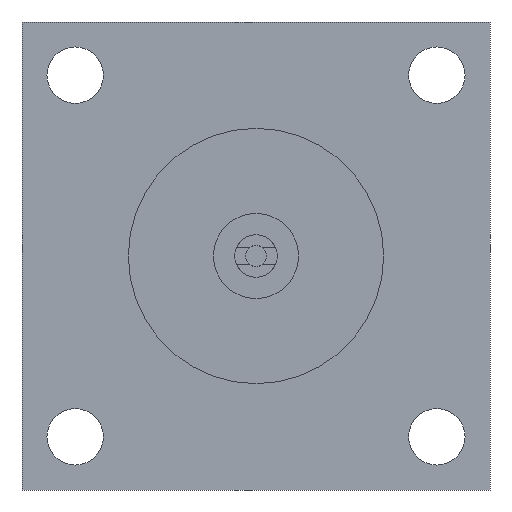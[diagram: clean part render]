
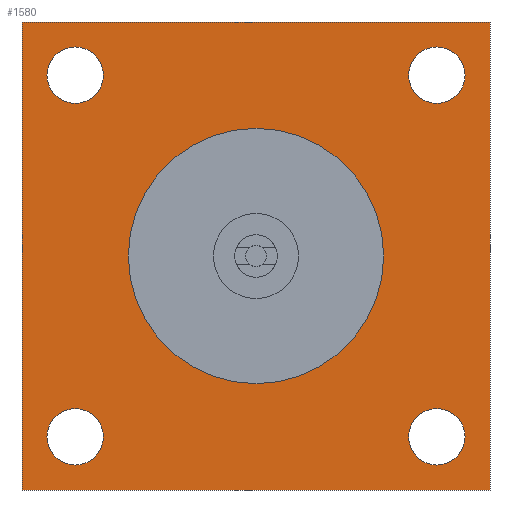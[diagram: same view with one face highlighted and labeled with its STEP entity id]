
A CAD part, left-side view. The second image highlights one B-rep face of the part: STEP entity #1580.
In plain terms, the highlighted planar face has unit normal (-1, 0, 0).
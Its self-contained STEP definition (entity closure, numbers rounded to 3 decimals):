
#8 = ORIENTED_EDGE ( 'NONE', *, *, #828, .F. ) ;
#11 = AXIS2_PLACEMENT_3D ( 'NONE', #247, #294, #1076 ) ;
#58 = EDGE_LOOP ( 'NONE', ( #163, #1686 ) ) ;
#61 = ORIENTED_EDGE ( 'NONE', *, *, #1504, .F. ) ;
#74 = VECTOR ( 'NONE', #1184, 1000. ) ;
#77 = VECTOR ( 'NONE', #419, 1000. ) ;
#118 = VERTEX_POINT ( 'NONE', #1096 ) ;
#129 = AXIS2_PLACEMENT_3D ( 'NONE', #1227, #1236, #1251 ) ;
#132 = CARTESIAN_POINT ( 'NONE',  ( -20., -85., 85. ) ) ;
#147 = DIRECTION ( 'NONE',  ( -1., 0., 0. ) ) ;
#150 = VERTEX_POINT ( 'NONE', #1061 ) ;
#158 = DIRECTION ( 'NONE',  ( 0., 0., 1. ) ) ;
#163 = ORIENTED_EDGE ( 'NONE', *, *, #671, .F. ) ;
#186 = DIRECTION ( 'NONE',  ( 0., 0., 1. ) ) ;
#222 = FACE_BOUND ( 'NONE', #593, .T. ) ;
#247 = CARTESIAN_POINT ( 'NONE',  ( -20., 85., 85. ) ) ;
#249 = AXIS2_PLACEMENT_3D ( 'NONE', #1136, #1697, #186 ) ;
#254 = CIRCLE ( 'NONE', #770, 13.25 ) ;
#256 = CIRCLE ( 'NONE', #295, 13.25 ) ;
#269 = AXIS2_PLACEMENT_3D ( 'NONE', #912, #834, #926 ) ;
#294 = DIRECTION ( 'NONE',  ( -1., 0., 0. ) ) ;
#295 = AXIS2_PLACEMENT_3D ( 'NONE', #738, #768, #789 ) ;
#300 = CIRCLE ( 'NONE', #11, 13.25 ) ;
#312 = CARTESIAN_POINT ( 'NONE',  ( -20., 110., 110. ) ) ;
#322 = CARTESIAN_POINT ( 'NONE',  ( -20., -85., 71.75 ) ) ;
#324 = VERTEX_POINT ( 'NONE', #1312 ) ;
#360 = CIRCLE ( 'NONE', #619, 13.25 ) ;
#369 = EDGE_CURVE ( 'NONE', #324, #1069, #300, .T. ) ;
#401 = EDGE_LOOP ( 'NONE', ( #1608, #8 ) ) ;
#404 = VECTOR ( 'NONE', #693, 1000. ) ;
#407 = VERTEX_POINT ( 'NONE', #456 ) ;
#419 = DIRECTION ( 'NONE',  ( 0., 0., -1. ) ) ;
#445 = LINE ( 'NONE', #1756, #74 ) ;
#447 = LINE ( 'NONE', #1473, #77 ) ;
#454 = EDGE_CURVE ( 'NONE', #1069, #324, #256, .T. ) ;
#456 = CARTESIAN_POINT ( 'NONE',  ( -20., 85., -71.75 ) ) ;
#464 = VERTEX_POINT ( 'NONE', #877 ) ;
#472 = VERTEX_POINT ( 'NONE', #986 ) ;
#480 = AXIS2_PLACEMENT_3D ( 'NONE', #681, #655, #750 ) ;
#502 = CARTESIAN_POINT ( 'NONE',  ( -20., 110., -110. ) ) ;
#509 = EDGE_CURVE ( 'NONE', #751, #472, #445, .T. ) ;
#517 = VERTEX_POINT ( 'NONE', #322 ) ;
#571 = FACE_BOUND ( 'NONE', #1273, .T. ) ;
#572 = CARTESIAN_POINT ( 'NONE',  ( -20., -110., -110. ) ) ;
#593 = EDGE_LOOP ( 'NONE', ( #1800, #1128 ) ) ;
#598 = DIRECTION ( 'NONE',  ( 0., 1., 0. ) ) ;
#602 = VERTEX_POINT ( 'NONE', #1317 ) ;
#613 = ORIENTED_EDGE ( 'NONE', *, *, #509, .T. ) ;
#619 = AXIS2_PLACEMENT_3D ( 'NONE', #132, #147, #158 ) ;
#621 = ORIENTED_EDGE ( 'NONE', *, *, #1731, .F. ) ;
#624 = CARTESIAN_POINT ( 'NONE',  ( -20., 0., 0. ) ) ;
#644 = AXIS2_PLACEMENT_3D ( 'NONE', #1684, #717, #1543 ) ;
#655 = DIRECTION ( 'NONE',  ( -1., 0., 0. ) ) ;
#671 = EDGE_CURVE ( 'NONE', #602, #517, #360, .T. ) ;
#681 = CARTESIAN_POINT ( 'NONE',  ( -20., -85., -85. ) ) ;
#693 = DIRECTION ( 'NONE',  ( 0., -1., 0. ) ) ;
#717 = DIRECTION ( 'NONE',  ( -1., 0., 0. ) ) ;
#730 = CARTESIAN_POINT ( 'NONE',  ( -20., 85., 98.25 ) ) ;
#738 = CARTESIAN_POINT ( 'NONE',  ( -20., 85., 85. ) ) ;
#750 = DIRECTION ( 'NONE',  ( 0., 0., 1. ) ) ;
#751 = VERTEX_POINT ( 'NONE', #572 ) ;
#762 = LINE ( 'NONE', #502, #404 ) ;
#768 = DIRECTION ( 'NONE',  ( -1., 0., 0. ) ) ;
#770 = AXIS2_PLACEMENT_3D ( 'NONE', #1360, #1509, #1553 ) ;
#773 = VERTEX_POINT ( 'NONE', #802 ) ;
#782 = CIRCLE ( 'NONE', #129, 13.25 ) ;
#783 = EDGE_LOOP ( 'NONE', ( #1469, #613, #1242, #906 ) ) ;
#789 = DIRECTION ( 'NONE',  ( 0., 0., 1. ) ) ;
#797 = LINE ( 'NONE', #312, #1493 ) ;
#802 = CARTESIAN_POINT ( 'NONE',  ( -20., -85., -98.25 ) ) ;
#828 = EDGE_CURVE ( 'NONE', #1742, #407, #782, .T. ) ;
#834 = DIRECTION ( 'NONE',  ( -1., 0., 0. ) ) ;
#865 = VERTEX_POINT ( 'NONE', #1377 ) ;
#877 = CARTESIAN_POINT ( 'NONE',  ( -20., 0., 60. ) ) ;
#890 = CIRCLE ( 'NONE', #1305, 60. ) ;
#906 = ORIENTED_EDGE ( 'NONE', *, *, #1619, .T. ) ;
#912 = CARTESIAN_POINT ( 'NONE',  ( -20., 0., 0. ) ) ;
#926 = DIRECTION ( 'NONE',  ( 0., 0., -1. ) ) ;
#978 = EDGE_CURVE ( 'NONE', #773, #1109, #254, .T. ) ;
#986 = CARTESIAN_POINT ( 'NONE',  ( -20., -110., 110. ) ) ;
#1006 = CIRCLE ( 'NONE', #269, 60. ) ;
#1061 = CARTESIAN_POINT ( 'NONE',  ( -20., 110., 110. ) ) ;
#1062 = EDGE_CURVE ( 'NONE', #472, #150, #797, .T. ) ;
#1069 = VERTEX_POINT ( 'NONE', #730 ) ;
#1076 = DIRECTION ( 'NONE',  ( 0., 0., 1. ) ) ;
#1096 = CARTESIAN_POINT ( 'NONE',  ( -20., 110., -110. ) ) ;
#1099 = EDGE_CURVE ( 'NONE', #407, #1742, #1581, .T. ) ;
#1109 = VERTEX_POINT ( 'NONE', #1381 ) ;
#1128 = ORIENTED_EDGE ( 'NONE', *, *, #369, .F. ) ;
#1136 = CARTESIAN_POINT ( 'NONE',  ( -20., -85., 85. ) ) ;
#1184 = DIRECTION ( 'NONE',  ( 0., 0., 1. ) ) ;
#1199 = ORIENTED_EDGE ( 'NONE', *, *, #978, .F. ) ;
#1207 = AXIS2_PLACEMENT_3D ( 'NONE', #1307, #1448, #1451 ) ;
#1227 = CARTESIAN_POINT ( 'NONE',  ( -20., 85., -85. ) ) ;
#1236 = DIRECTION ( 'NONE',  ( -1., 0., 0. ) ) ;
#1242 = ORIENTED_EDGE ( 'NONE', *, *, #1062, .T. ) ;
#1251 = DIRECTION ( 'NONE',  ( 0., 0., 1. ) ) ;
#1255 = FACE_OUTER_BOUND ( 'NONE', #783, .T. ) ;
#1273 = EDGE_LOOP ( 'NONE', ( #61, #1199 ) ) ;
#1288 = EDGE_CURVE ( 'NONE', #517, #602, #1586, .T. ) ;
#1298 = FACE_BOUND ( 'NONE', #1495, .T. ) ;
#1305 = AXIS2_PLACEMENT_3D ( 'NONE', #624, #1614, #1462 ) ;
#1307 = CARTESIAN_POINT ( 'NONE',  ( -20., 0., 0. ) ) ;
#1312 = CARTESIAN_POINT ( 'NONE',  ( -20., 85., 71.75 ) ) ;
#1317 = CARTESIAN_POINT ( 'NONE',  ( -20., -85., 98.25 ) ) ;
#1360 = CARTESIAN_POINT ( 'NONE',  ( -20., -85., -85. ) ) ;
#1377 = CARTESIAN_POINT ( 'NONE',  ( -20., 0., -60. ) ) ;
#1381 = CARTESIAN_POINT ( 'NONE',  ( -20., -85., -71.75 ) ) ;
#1440 = PLANE ( 'NONE',  #1207 ) ;
#1448 = DIRECTION ( 'NONE',  ( 1., 0., 0. ) ) ;
#1451 = DIRECTION ( 'NONE',  ( 0., 0., -1. ) ) ;
#1462 = DIRECTION ( 'NONE',  ( 0., 0., -1. ) ) ;
#1469 = ORIENTED_EDGE ( 'NONE', *, *, #1659, .T. ) ;
#1473 = CARTESIAN_POINT ( 'NONE',  ( -20., 110., 110. ) ) ;
#1493 = VECTOR ( 'NONE', #598, 1000. ) ;
#1495 = EDGE_LOOP ( 'NONE', ( #621, #1694 ) ) ;
#1504 = EDGE_CURVE ( 'NONE', #1109, #773, #1523, .T. ) ;
#1509 = DIRECTION ( 'NONE',  ( -1., 0., 0. ) ) ;
#1523 = CIRCLE ( 'NONE', #480, 13.25 ) ;
#1526 = CARTESIAN_POINT ( 'NONE',  ( -20., 85., -98.25 ) ) ;
#1543 = DIRECTION ( 'NONE',  ( 0., 0., 1. ) ) ;
#1553 = DIRECTION ( 'NONE',  ( 0., 0., 1. ) ) ;
#1580 = ADVANCED_FACE ( 'NONE', ( #1298, #1677, #571, #222, #1631, #1255 ), #1440, .F. ) ;
#1581 = CIRCLE ( 'NONE', #644, 13.25 ) ;
#1586 = CIRCLE ( 'NONE', #249, 13.25 ) ;
#1593 = EDGE_CURVE ( 'NONE', #464, #865, #890, .T. ) ;
#1608 = ORIENTED_EDGE ( 'NONE', *, *, #1099, .F. ) ;
#1614 = DIRECTION ( 'NONE',  ( -1., 0., 0. ) ) ;
#1619 = EDGE_CURVE ( 'NONE', #150, #118, #447, .T. ) ;
#1631 = FACE_BOUND ( 'NONE', #401, .T. ) ;
#1659 = EDGE_CURVE ( 'NONE', #118, #751, #762, .T. ) ;
#1677 = FACE_BOUND ( 'NONE', #58, .T. ) ;
#1684 = CARTESIAN_POINT ( 'NONE',  ( -20., 85., -85. ) ) ;
#1686 = ORIENTED_EDGE ( 'NONE', *, *, #1288, .F. ) ;
#1694 = ORIENTED_EDGE ( 'NONE', *, *, #1593, .F. ) ;
#1697 = DIRECTION ( 'NONE',  ( -1., 0., 0. ) ) ;
#1731 = EDGE_CURVE ( 'NONE', #865, #464, #1006, .T. ) ;
#1742 = VERTEX_POINT ( 'NONE', #1526 ) ;
#1756 = CARTESIAN_POINT ( 'NONE',  ( -20., -110., 110. ) ) ;
#1800 = ORIENTED_EDGE ( 'NONE', *, *, #454, .F. ) ;
